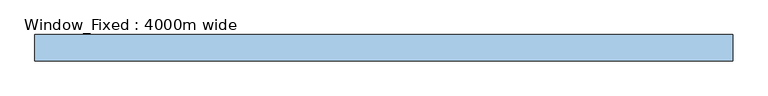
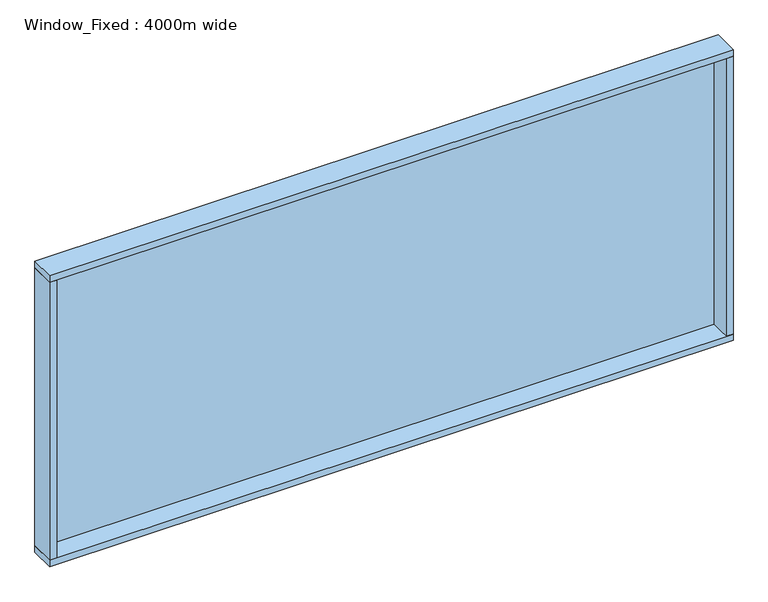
"""IFC4 building model written with IfcOpenShell, lengths in millimetres: window geometry, Window_Fixed : 4000m wide."""

from ifc_helpers import new_model, si_unit, frame, origin, place, context, project, spatial, polyline, outline, extrude, source, transform, mapped, element, save


def window_fixed_4000m_wide_275cc457(model_context):
    return source(origin(), model_context, "Body", "SweptSolid", [
        extrude(outline(polyline([(1960.0, 120.0), (1960.0, 108.0), (-1960.0, 108.0), (-1960.0, 120.0), (1960.0, 120.0)])), frame((0.0, 0.0, 290.0), z_axis=(0.0, 0.0, 1.0), x_axis=(1.0, 0.0, 0.0)), (0.0, 0.0, 1.0), 1720.0),
        extrude(outline(polyline([(2000.0, 135.0), (2000.0, -15.0), (-2000.0, -15.0), (-2000.0, 135.0), (2000.0, 135.0)])), frame((0.0, 0.0, 2010.0), z_axis=(0.0, 0.0, 1.0), x_axis=(1.0, 0.0, 0.0)), (0.0, 0.0, 1.0), 40.0),
        extrude(outline(polyline([(2000.0, 135.0), (2000.0, -15.0), (-2000.0, -15.0), (-2000.0, 135.0), (2000.0, 135.0)])), frame((0.0, 0.0, 250.0), z_axis=(0.0, 0.0, 1.0), x_axis=(1.0, 0.0, 0.0)), (0.0, 0.0, 1.0), 40.0),
        extrude(outline(polyline([(-1960.0, -15.0), (-2000.0, -15.0), (-2000.0, 135.0), (-1960.0, 135.0), (-1960.0, -15.0)])), frame((0.0, 0.0, 290.0), z_axis=(0.0, 0.0, 1.0), x_axis=(1.0, 0.0, 0.0)), (0.0, 0.0, 1.0), 1720.0),
        extrude(outline(polyline([(1960.0, -15.0), (1960.0, 135.0), (2000.0, 135.0), (2000.0, -15.0), (1960.0, -15.0)])), frame((0.0, 0.0, 290.0), z_axis=(0.0, 0.0, 1.0), x_axis=(1.0, 0.0, 0.0)), (0.0, 0.0, 1.0), 1720.0),
    ])


if __name__ == "__main__":
    model = new_model("IFC4")
    model_context = context("Model", 3, world=origin())
    ifc_project = project(units=[si_unit("LENGTHUNIT", "METRE", prefix="MILLI")], contexts=[model_context])
    site = spatial("IfcSite", under=ifc_project)
    building = spatial("IfcBuilding", under=site)
    placement = place(None, origin())
    window_fixed_4000m_wide_shape = window_fixed_4000m_wide_275cc457(model_context)
    element("IfcWindow", 1, ObjectType="Window_Fixed : 4000m wide", at=placement, inside=building, context=model_context, shape_type="MappedRepresentation", body=[
        mapped(window_fixed_4000m_wide_shape, transform((0.0, 0.0, 0.0), x_axis=(1.0, 0.0, 0.0), y_axis=(0.0, 1.0, 0.0), z_axis=(0.0, 0.0, 1.0))),
    ])
    save(model, "model.ifc")
